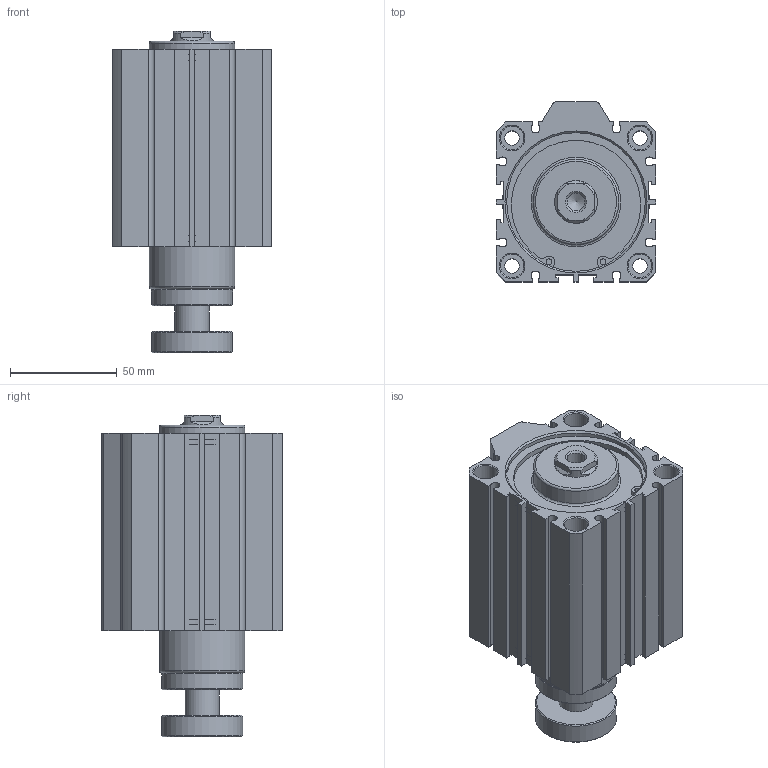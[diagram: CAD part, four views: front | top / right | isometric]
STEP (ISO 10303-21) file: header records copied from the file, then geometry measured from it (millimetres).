
FILE_DESCRIPTION((''),'2;1');
FILE_NAME('I:\3D電子目錄\氣缸\JDAR\JDAR-S\JDAR63-S\JDAR63x50-S.stp','2007-05-05T10:26:12',('662F206'),(''),'Autodesk Inventor 11','Autodesk Inventor 11','');
FILE_SCHEMA(('AUTOMOTIVE_DESIGN { 1 0 10303 214 1 1 1 1 }'));
Length unit declared in the file: millimetre
Products named in the file (3): JDAR63-S; R 形環 65
Assembly tree (3 placements, depth 2):
  JDAR63-S
    JDAR63-S
    R 形環 65  x2
Bounding box: 75 x 84.5 x 150.8 mm (x, y, z)
Volume: 526061 mm3; surface area: 78363.1 mm2
Topology: 3 solids, 3 shells, 197 faces, 484 edges, 317 vertices
Faces by surface type: plane 110, cylinder 58, cone 23, bspline 4, torus 2
Full cylindrical faces by diameter (mm): 2.7 x4, 3 x2, 6.8 x4, 11 x8, 16 x1, 20 x1, 38 x2, 40 x2, 65 x4, 68 x2
Entity records: 5335 total; most frequent: CARTESIAN_POINT 1013, DIRECTION 898, ORIENTED_EDGE 788, EDGE_CURVE 394, AXIS2_PLACEMENT_3D 325, VERTEX_POINT 290, EDGE_LOOP 274, VECTOR 248
